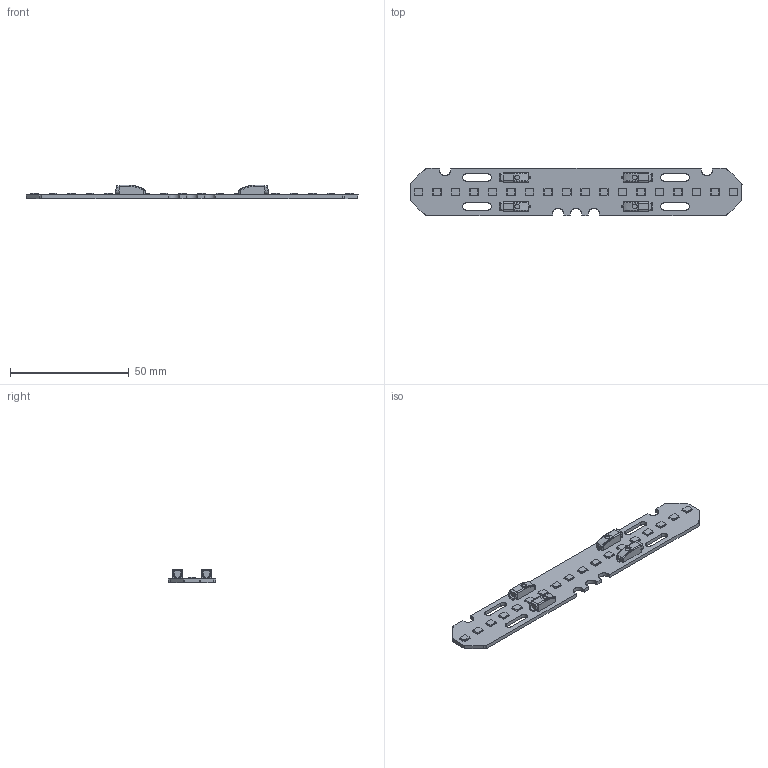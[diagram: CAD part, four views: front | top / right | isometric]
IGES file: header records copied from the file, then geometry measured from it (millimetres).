
Start section: SolidWorks IGES file using analytic representation for surfaces
Global section: file name: D:\ECTR_TEMP\OLQ-batchEngine\queue\temp\4162922swm000.igs; native system: SolidWorks 2017; preprocessor: SolidWorks 2017; author: SYSTEM; date: 200214.161940; units: millimetre
Bounding box: 139.5 x 20 x 5.55 mm (x, y, z)
Surface area: 7066.3 mm2 (no closed solid volume)
Topology: 0 solids, 0 shells, 804 faces, 5670 edges, 5666 vertices
Faces by surface type: bspline 635, revolution 169
